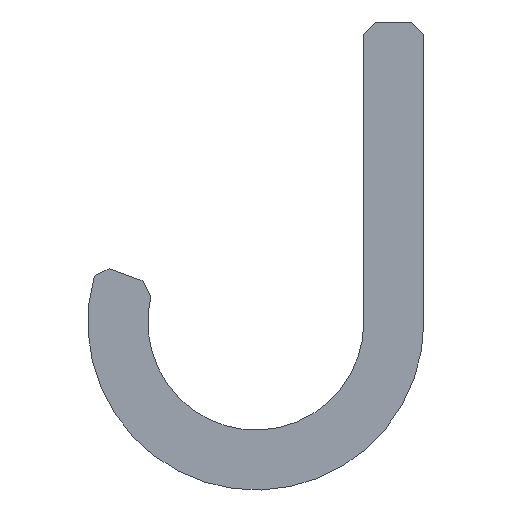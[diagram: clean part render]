
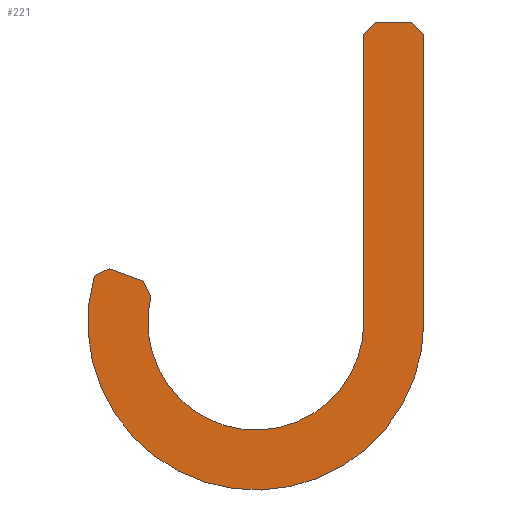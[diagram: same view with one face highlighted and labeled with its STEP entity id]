
A CAD part, left-side view. The second image highlights one B-rep face of the part: STEP entity #221.
In plain terms, the highlighted planar face has unit normal (-1, 0, 0).
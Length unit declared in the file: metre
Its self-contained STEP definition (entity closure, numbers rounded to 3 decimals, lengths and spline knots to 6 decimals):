
#17=PLANE('',#250);
#26=LINE('',#330,#52);
#27=LINE('',#332,#53);
#31=LINE('',#341,#57);
#38=LINE('',#361,#64);
#44=LINE('',#370,#70);
#45=LINE('',#371,#71);
#46=LINE('',#372,#72);
#47=LINE('',#373,#73);
#52=VECTOR('',#269,1.);
#53=VECTOR('',#272,1.);
#57=VECTOR('',#278,1.);
#64=VECTOR('',#293,1.);
#70=VECTOR('',#303,1.);
#71=VECTOR('',#304,1.);
#72=VECTOR('',#305,1.);
#73=VECTOR('',#306,1.);
#108=ORIENTED_EDGE('',*,*,#140,.F.);
#109=ORIENTED_EDGE('',*,*,#160,.T.);
#110=ORIENTED_EDGE('',*,*,#141,.F.);
#111=ORIENTED_EDGE('',*,*,#161,.T.);
#112=ORIENTED_EDGE('',*,*,#145,.F.);
#113=ORIENTED_EDGE('',*,*,#151,.F.);
#114=ORIENTED_EDGE('',*,*,#162,.T.);
#115=ORIENTED_EDGE('',*,*,#154,.F.);
#116=ORIENTED_EDGE('',*,*,#163,.T.);
#117=ORIENTED_EDGE('',*,*,#134,.F.);
#134=EDGE_CURVE('',#164,#165,#184,.T.);
#140=EDGE_CURVE('',#169,#164,#26,.F.);
#141=EDGE_CURVE('',#170,#171,#27,.T.);
#145=EDGE_CURVE('',#174,#175,#31,.T.);
#151=EDGE_CURVE('',#179,#174,#187,.F.);
#154=EDGE_CURVE('',#182,#183,#38,.F.);
#160=EDGE_CURVE('',#169,#171,#44,.F.);
#161=EDGE_CURVE('',#170,#175,#45,.F.);
#162=EDGE_CURVE('',#179,#183,#46,.F.);
#163=EDGE_CURVE('',#182,#165,#47,.F.);
#164=VERTEX_POINT('',#318);
#165=VERTEX_POINT('',#319);
#169=VERTEX_POINT('',#329);
#170=VERTEX_POINT('',#333);
#171=VERTEX_POINT('',#334);
#174=VERTEX_POINT('',#342);
#175=VERTEX_POINT('',#343);
#179=VERTEX_POINT('',#353);
#182=VERTEX_POINT('',#360);
#183=VERTEX_POINT('',#362);
#184=CIRCLE('',#240,0.007);
#187=CIRCLE('',#247,0.0045);
#195=EDGE_LOOP('',(#108,#109,#110,#111,#112,#113,#114,#115,#116,#117));
#207=FACE_BOUND('',#195,.T.);
#221=ADVANCED_FACE('',(#207),#17,.F.);
#240=AXIS2_PLACEMENT_3D('',#317,#259,#260);
#247=AXIS2_PLACEMENT_3D('',#354,#287,#288);
#250=AXIS2_PLACEMENT_3D('',#369,#301,#302);
#259=DIRECTION('',(1.,0.,0.));
#260=DIRECTION('',(0.,-1.,0.));
#269=DIRECTION('',(0.,0.,1.));
#272=DIRECTION('',(0.,-1.,0.));
#278=DIRECTION('',(0.,0.,1.));
#287=DIRECTION('',(1.,0.,0.));
#288=DIRECTION('',(0.,-1.,0.));
#293=DIRECTION('',(0.,0.94,0.342));
#301=DIRECTION('',(1.,0.,0.));
#302=DIRECTION('',(0.,1.,0.));
#303=DIRECTION('',(0.,-0.707,-0.707));
#304=DIRECTION('',(0.,-0.707,0.707));
#305=DIRECTION('',(0.,-0.448,-0.894));
#306=DIRECTION('',(0.,-0.899,0.439));
#317=CARTESIAN_POINT('',(0.185358,-0.305458,0.));
#318=CARTESIAN_POINT('',(0.185358,-0.312458,0.));
#319=CARTESIAN_POINT('',(0.185358,-0.298726,0.001918));
#329=CARTESIAN_POINT('',(0.185358,-0.312458,0.012));
#330=CARTESIAN_POINT('',(0.185358,-0.312458,0.00625));
#332=CARTESIAN_POINT('',(0.185358,-0.311208,0.0125));
#333=CARTESIAN_POINT('',(0.185358,-0.310458,0.0125));
#334=CARTESIAN_POINT('',(0.185358,-0.311958,0.0125));
#341=CARTESIAN_POINT('',(0.185358,-0.309958,0.00625));
#342=CARTESIAN_POINT('',(0.185358,-0.309958,0.));
#343=CARTESIAN_POINT('',(0.185358,-0.309958,0.012));
#353=CARTESIAN_POINT('',(0.185358,-0.301084,0.00106));
#354=CARTESIAN_POINT('',(0.185358,-0.305458,0.));
#360=CARTESIAN_POINT('',(0.185358,-0.29935,0.002223));
#361=CARTESIAN_POINT('',(0.185358,-0.300055,0.001967));
#362=CARTESIAN_POINT('',(0.185358,-0.300759,0.00171));
#369=CARTESIAN_POINT('',(0.185358,-0.305458,0.00275));
#370=CARTESIAN_POINT('',(0.185358,-0.311958,0.0125));
#371=CARTESIAN_POINT('',(0.185358,-0.309958,0.012));
#372=CARTESIAN_POINT('',(0.185358,-0.300759,0.00171));
#373=CARTESIAN_POINT('',(0.185358,-0.298726,0.001918));
